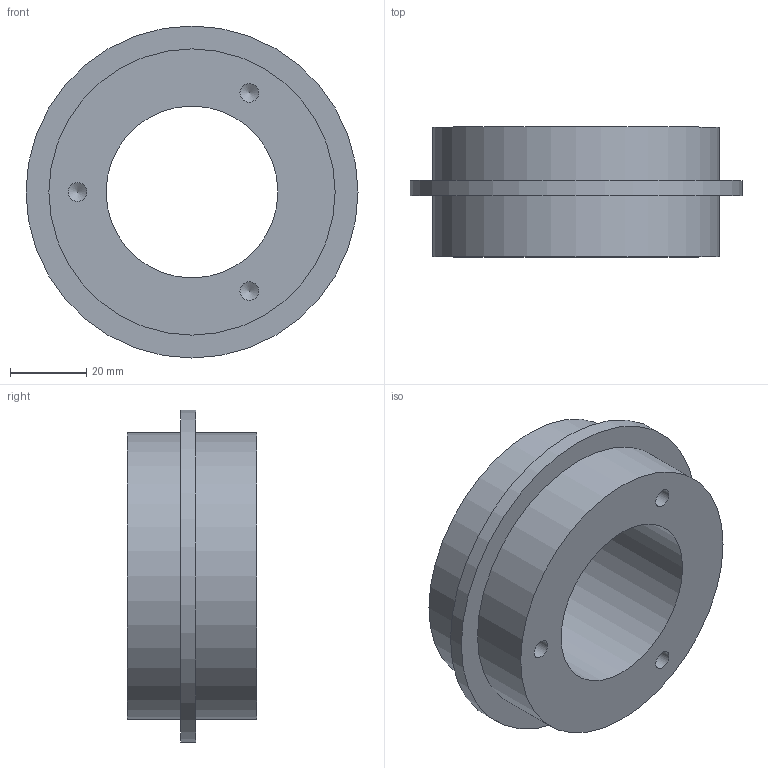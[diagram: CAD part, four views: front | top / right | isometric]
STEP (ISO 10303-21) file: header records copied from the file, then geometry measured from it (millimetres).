
FILE_DESCRIPTION(/* description */ (''),/* implementation_level */ '2;1');
FILE_NAME(/* name */ 'C:\Users\strothej\Documents\ActualDocuments\MicroscopeParts\TwoPhotonSystem\ScanningMechanics\v30\Drawings\Support_Rotation_Pivot.stp',/* time_stamp */ '2017-06-28T14:51:37-07:00',/* author */ ('strothej'),/* organization */ (''),/* preprocessor_version */ 'ST-DEVELOPER v16.1',/* originating_system */ 'Autodesk Inventor 2016',/* authorisation */ '');
FILE_SCHEMA (('AUTOMOTIVE_DESIGN { 1 0 10303 214 3 1 1 }'));
Length unit declared in the file: millimetre
Products named in the file (1): Support_Rotation_Pivot
Bounding box: 87 x 34 x 87 mm (x, y, z)
Volume: 101186.6 mm3; surface area: 22520.6 mm2
Topology: 1 solids, 1 shells, 14 faces, 29 edges, 19 vertices
Faces by surface type: cylinder 7, plane 4, cone 3
Full cylindrical faces by diameter (mm): 4.917 x3, 45 x1, 75 x2, 87 x1
Entity records: 312 total; most frequent: DIRECTION 58, CARTESIAN_POINT 43, AXIS2_PLACEMENT_3D 29, EDGE_LOOP 28, ORIENTED_EDGE 28, FACE_BOUND 14, FACE_OUTER_BOUND 14, CIRCLE 14
